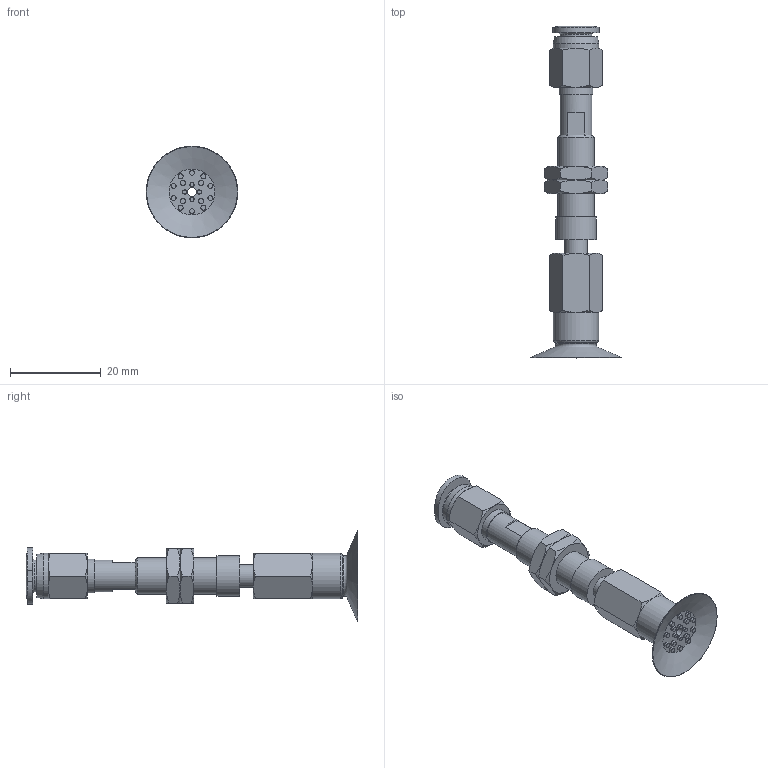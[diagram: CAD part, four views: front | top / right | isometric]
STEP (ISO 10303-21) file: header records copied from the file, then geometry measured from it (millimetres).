
FILE_DESCRIPTION(('STEP AP203'),'1');
FILE_NAME('-O.stp','2025-08-26T08:54:59',(' '),(' '),'Spatial InterOp 3D',' ',' ');
FILE_SCHEMA(('CONFIG_CONTROL_DESIGN'));
Length unit declared in the file: millimetre
Products named in the file (7): BNABPATS-20A-3-※-O; ADAPTER; NAPATS-10A-3--M; NAPATS-20A-3--F; Nut-10A-S; BPAG-20A-※_3D; PC-C_06-M5
Assembly tree (7 placements, depth 2):
  BNABPATS-20A-3-※-O
    ADAPTER
    NAPATS-10A-3--M
    NAPATS-20A-3--F
    Nut-10A-S  x2
    BPAG-20A-※_3D
    PC-C_06-M5
Bounding box: 20.19 x 72.98 x 20.19 mm (x, y, z)
Volume: 3706 mm3; surface area: 5614.8 mm2
Topology: 6 solids, 9 shells, 200 faces, 392 edges, 240 vertices
Faces by surface type: plane 76, cone 62, cylinder 43, torus 12, bspline 4, revolution 3
Full cylindrical faces by diameter (mm): 0.9 x4, 1.1 x14, 2 x3, 4 x4, 4.134 x1, 5 x3, 6 x2, 7 x2, 7.188 x2, 7.4 x1, 8 x1, 8.2 x1, 9 x1, 10 x2
Entity records: 4876 total; most frequent: CARTESIAN_POINT 1290, DIRECTION 695, ORIENTED_EDGE 530, AXIS2_PLACEMENT_3D 326, EDGE_LOOP 286, EDGE_CURVE 267, VERTEX_POINT 201, FACE_OUTER_BOUND 169
